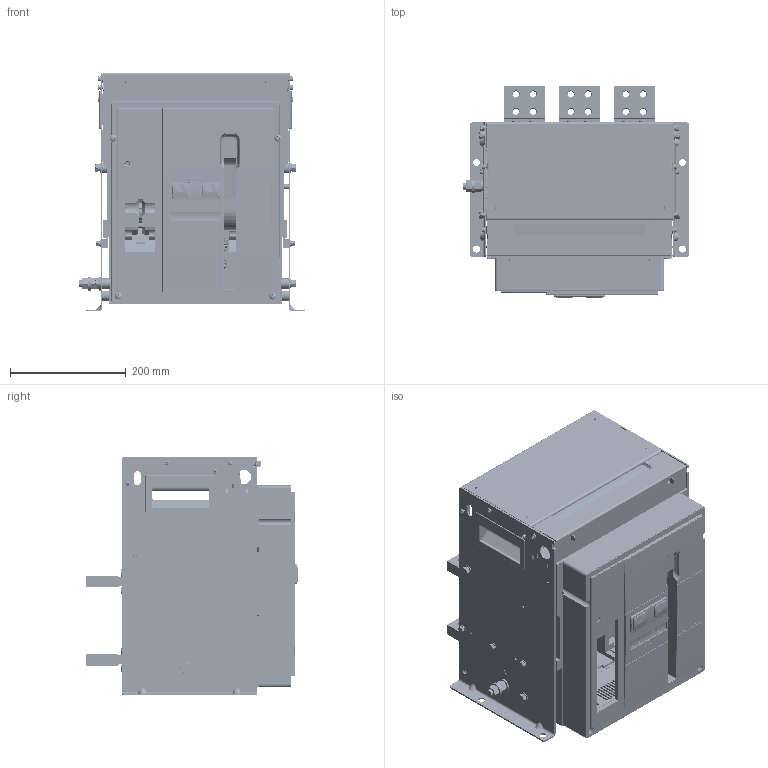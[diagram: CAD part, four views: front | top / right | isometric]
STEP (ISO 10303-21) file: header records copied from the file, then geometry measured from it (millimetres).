
FILE_DESCRIPTION((''),'2;1');
FILE_NAME('2TZD_257_1005_ASM','2025-08-22T13:48:54',('zhuzhirong'),(''),'CREO PARAMETRIC BY PTC INC, 2020354','CREO PARAMETRIC BY PTC INC, 2020354','');
FILE_SCHEMA(('CONFIG_CONTROL_DESIGN'));
Products named in the file (118): 8TZD_024_6007; 8TZD_947_1003; 8TZD_947_1002; 5TZD_024_1257_ASM; 8TZD_156_1099; 8TZD_043_1227; 8TZD_580_1090; 8TZD_505_1168; 8TZD_557_6002; 8TZD_550_6014; 5TZD_558_6002_ASM; 5TZD_580_1022_ASM; 8TZD_141_1042; 8TZD_206_1018; 5TZD_141_1019_ASM; 8TZD_141_1043; 5TZD_141_1020_ASM; 8TZD_104_6004; 8TZD_206_1019; 8TZD_300_1233; 8TZD_206_1020; 8TZD_114_1009; GB_T97_1_6; GB_T93-6; GB_T818-M6X25; GB_T818-M6X45; GB_T6170-M6; GB_T845-ST6_3X16-C; 8TZD_282_1256_AF3; 8TZD_282_1256_AF4; 8TZD_282_1256_AF5; 8TZD_940_1006; 8TZD_940_1003; 8TZD_940_1005; 8TZD_055_1011; 8TZD_947_1004; 5TZD_055_1033_ASM; 8TZD_552_1059; 8TZD_550_6013; 5TZD_552_1184_ASM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
Assembly tree (489 placements, depth 4):
  2TZD_257_1005_ASM
    5TZD_024_1257_ASM
      8TZD_024_6007
      8TZD_947_1003  x2
      8TZD_947_1002  x7
    8TZD_156_1099  x3
    8TZD_043_1227  x3
    5TZD_580_1022_ASM  x3
      8TZD_580_1090
      8TZD_505_1168
      5TZD_558_6002_ASM
        8TZD_557_6002
        8TZD_550_6014
    5TZD_141_1019_ASM  x3
      8TZD_141_1042
      8TZD_206_1018
    5TZD_141_1020_ASM  x3
      8TZD_141_1043
      8TZD_206_1018
    8TZD_104_6004  x3
    8TZD_206_1019  x3
    8TZD_300_1233  x3
    8TZD_206_1020  x3
    8TZD_114_1009  x3
    GB_T97_1_6  x13
    GB_T93-6  x13
    GB_T818-M6X25  x3
    GB_T818-M6X45  x6
    GB_T6170-M6  x6
    GB_T845-ST6_3X16-C  x18
    8TZD_282_1256_AF3  x24
    8TZD_282_1256_AF4  x24
    8TZD_282_1256_AF5  x24
    8TZD_940_1006  x4
    8TZD_940_1003  x4
    8TZD_940_1005  x4
    5TZD_055_1033_ASM
      8TZD_055_1011
      8TZD_947_1004  x6
      8TZD_947_1002  x3
      8TZD_947_1003  x6
    5TZD_552_1183_ASM  x3
      5TZD_552_1184_ASM
        8TZD_552_1059
        8TZD_550_6013
      8TZD_595_1055
    8TZD_750_1105  x3
    GB_T956_1_6  x6
    GB_T819_1-M6X16  x9
    8TZD_212_1012  x6
    8TZD_941_1000  x6
    GB_T9074_4-M6X40  x4
    GB_T9074_4-M6X55  x4
    GB_T9074_4-M6X80  x8
    5TZD_315_1007_ASM
      5TZD_315_1763
      GB_T809-M6X12-B
    GB_T9074_4-M4X14  x4
    8TZD_288_1020  x2
    8TZD_161_1040
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Bounding box: 390 x 368.1 x 412.69 mm (x, y, z)
Volume: 10768077.6 mm3; surface area: 4575097.2 mm2
Topology: 565 solids, 781 shells, 26996 faces, 69560 edges, 44255 vertices
Faces by surface type: plane 14481, cylinder 8575, bspline 1541, cone 1237, torus 583, sphere 540, extrusion 35, revolution 4
Entity records: 454875 total; most frequent: CARTESIAN_POINT 127227, ORIENTED_EDGE 67822, DIRECTION 67594, EDGE_CURVE 34029, VECTOR 23394, LINE 23371, AXIS2_PLACEMENT_3D 22098, VERTEX_POINT 22027
